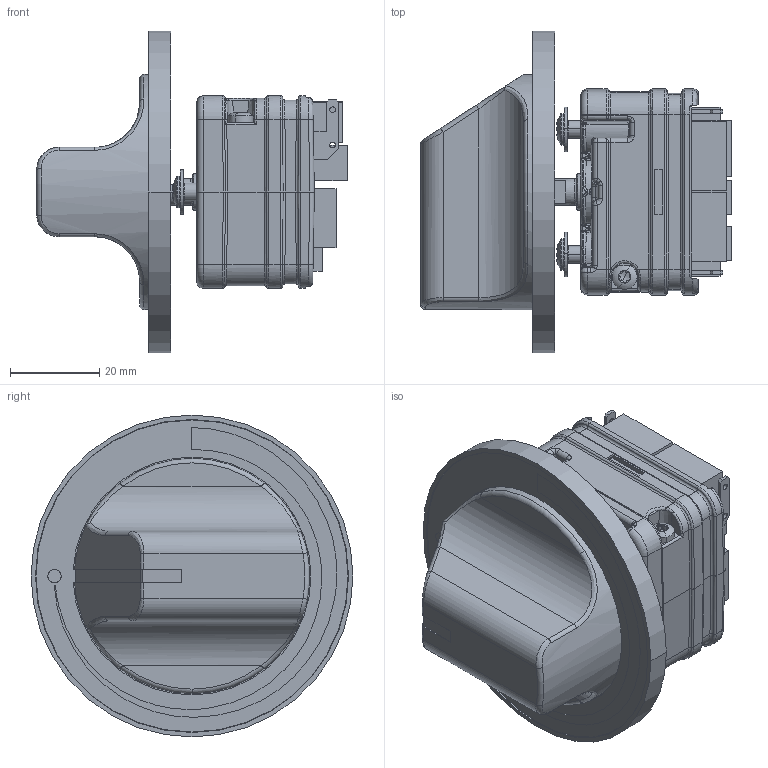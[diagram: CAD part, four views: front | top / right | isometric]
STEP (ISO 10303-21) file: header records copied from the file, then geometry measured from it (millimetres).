
FILE_DESCRIPTION (( 'STEP AP214' ), '1' );
FILE_NAME ('MMR.STEP', '2019-02-06T11:00:29', ( '' ), ( '' ), 'SwSTEP 2.0', 'SolidWorks 2018', '' );
FILE_SCHEMA (( 'AUTOMOTIVE_DESIGN' ));
Length unit declared in the file: millimetre
Products named in the file (1): MMR
Bounding box: 69.47 x 72 x 72 mm (x, y, z)
Volume: 94929.3 mm3; surface area: 25361.4 mm2
Topology: 1 solids, 1 shells, 1051 faces, 2593 edges, 1541 vertices
Faces by surface type: cylinder 377, bspline 297, plane 283, torus 38, sphere 30, cone 26
Entity records: 44663 total; most frequent: CARTESIAN_POINT 15378, ORIENTED_EDGE 5126, DIRECTION 3913, EDGE_CURVE 2563, VERTEX_POINT 1541, AXIS2_PLACEMENT_3D 1488, EDGE_LOOP 1086, ADVANCED_FACE 1051
